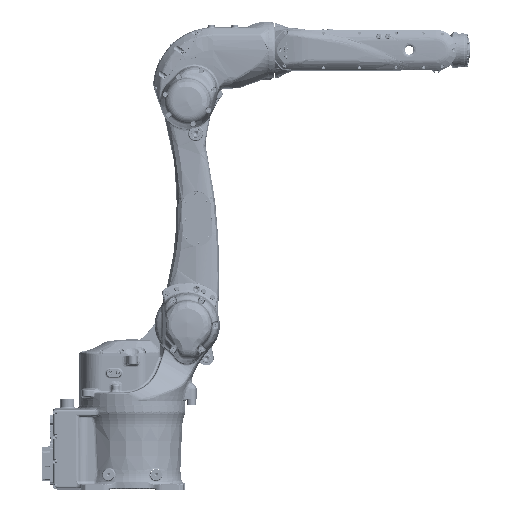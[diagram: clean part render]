
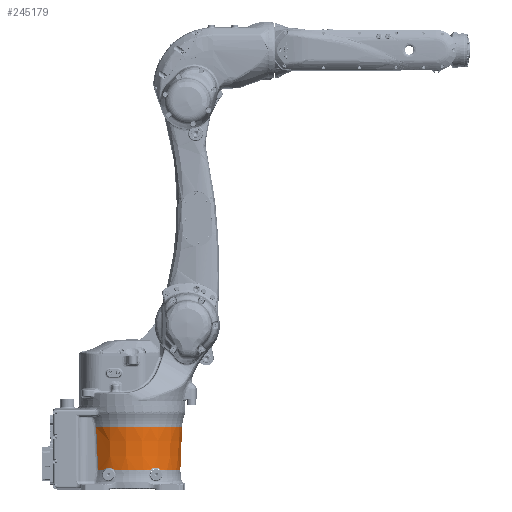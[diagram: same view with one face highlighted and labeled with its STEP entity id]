
A CAD part, front view. The second image highlights one B-rep face of the part: STEP entity #245179.
In plain terms, the highlighted conical face has half-angle 2 degrees and reference radius 131.595 mm.
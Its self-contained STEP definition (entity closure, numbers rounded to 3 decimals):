
#9065=B_SPLINE_CURVE_WITH_KNOTS('',3,(#563673,#563674,#563675,#563676,#563677,
#563678,#563679),.UNSPECIFIED.,.F.,.F.,(4,3,4),(0.,82.52,165.04),
 .UNSPECIFIED.);
#9066=B_SPLINE_CURVE_WITH_KNOTS('',5,(#563738,#563739,#563740,#563741,#563742,
#563743),.UNSPECIFIED.,.F.,.F.,(6,6),(126.485,243.203),
 .UNSPECIFIED.);
#9067=B_SPLINE_CURVE_WITH_KNOTS('',5,(#563747,#563748,#563749,#563750,#563751,
#563752,#563753,#563754,#563755,#563756,#563757,#563758),.UNSPECIFIED.,
 .F.,.F.,(6,3,3,6),(32.796,43.551,52.539,65.228),
 .UNSPECIFIED.);
#9068=B_SPLINE_CURVE_WITH_KNOTS('',5,(#563762,#563763,#563764,#563765,#563766,
#563767,#563768,#563769,#563770,#563771,#563772,#563773),.UNSPECIFIED.,
 .F.,.F.,(6,3,3,6),(33.982,47.342,55.68,66.42),
 .UNSPECIFIED.);
#9069=B_SPLINE_CURVE_WITH_KNOTS('',5,(#563777,#563778,#563779,#563780,#563781,
#563782,#563783,#563784,#563785,#563786,#563787,#563788),.UNSPECIFIED.,
 .F.,.F.,(6,3,3,6),(33.982,46.672,55.659,66.415),
 .UNSPECIFIED.);
#9070=B_SPLINE_CURVE_WITH_KNOTS('',5,(#563791,#563792,#563793,#563794,#563795,
#563796,#563797,#563798,#563799,#563800,#563801,#563802),.UNSPECIFIED.,
 .F.,.F.,(6,3,3,6),(32.793,45.549,54.085,65.241),
 .UNSPECIFIED.);
#31979=FACE_OUTER_BOUND('',#48189,.T.);
#48189=EDGE_LOOP('',(#185296,#185297,#185298,#185299,#185300,#185301,#185302,
#185303,#185304,#185305,#185306,#185307));
#93471=CIRCLE('',#264457,135.666);
#93487=CIRCLE('',#264483,131.595);
#93488=CIRCLE('',#264484,131.595);
#93489=CIRCLE('',#264485,131.595);
#93490=CIRCLE('',#264486,131.595);
#93491=CIRCLE('',#264487,131.595);
#108913=VERTEX_POINT('',#562612);
#108918=VERTEX_POINT('',#562655);
#108941=VERTEX_POINT('',#563577);
#108946=VERTEX_POINT('',#563735);
#108947=VERTEX_POINT('',#563737);
#108948=VERTEX_POINT('',#563744);
#108949=VERTEX_POINT('',#563746);
#108950=VERTEX_POINT('',#563759);
#108951=VERTEX_POINT('',#563761);
#108952=VERTEX_POINT('',#563774);
#108953=VERTEX_POINT('',#563776);
#108954=VERTEX_POINT('',#563789);
#136585=EDGE_CURVE('',#108913,#108918,#93471,.F.);
#136631=EDGE_CURVE('',#108941,#108913,#9065,.T.);
#136632=EDGE_CURVE('',#108941,#108946,#93487,.T.);
#136633=EDGE_CURVE('',#108947,#108918,#9066,.F.);
#136634=EDGE_CURVE('',#108948,#108947,#93488,.T.);
#136635=EDGE_CURVE('',#108949,#108948,#9067,.T.);
#136636=EDGE_CURVE('',#108950,#108949,#93489,.T.);
#136637=EDGE_CURVE('',#108951,#108950,#9068,.T.);
#136638=EDGE_CURVE('',#108952,#108951,#93490,.T.);
#136639=EDGE_CURVE('',#108953,#108952,#9069,.F.);
#136640=EDGE_CURVE('',#108954,#108953,#93491,.T.);
#136641=EDGE_CURVE('',#108946,#108954,#9070,.F.);
#185296=ORIENTED_EDGE('',*,*,#136632,.F.);
#185297=ORIENTED_EDGE('',*,*,#136631,.T.);
#185298=ORIENTED_EDGE('',*,*,#136585,.T.);
#185299=ORIENTED_EDGE('',*,*,#136633,.F.);
#185300=ORIENTED_EDGE('',*,*,#136634,.F.);
#185301=ORIENTED_EDGE('',*,*,#136635,.F.);
#185302=ORIENTED_EDGE('',*,*,#136636,.F.);
#185303=ORIENTED_EDGE('',*,*,#136637,.F.);
#185304=ORIENTED_EDGE('',*,*,#136638,.F.);
#185305=ORIENTED_EDGE('',*,*,#136639,.F.);
#185306=ORIENTED_EDGE('',*,*,#136640,.F.);
#185307=ORIENTED_EDGE('',*,*,#136641,.F.);
#239562=CONICAL_SURFACE('',#264482,131.595,0.035);
#245179=ADVANCED_FACE('',(#31979),#239562,.T.);
#264457=AXIS2_PLACEMENT_3D('',#562665,#303838,#303839);
#264482=AXIS2_PLACEMENT_3D('',#563734,#303899,#303900);
#264483=AXIS2_PLACEMENT_3D('',#563736,#303901,#303902);
#264484=AXIS2_PLACEMENT_3D('',#563745,#303903,#303904);
#264485=AXIS2_PLACEMENT_3D('',#563760,#303905,#303906);
#264486=AXIS2_PLACEMENT_3D('',#563775,#303907,#303908);
#264487=AXIS2_PLACEMENT_3D('',#563790,#303909,#303910);
#303838=DIRECTION('center_axis',(0.,0.,1.));
#303839=DIRECTION('ref_axis',(-1.,0.,0.));
#303899=DIRECTION('center_axis',(0.,0.,1.));
#303900=DIRECTION('ref_axis',(0.878,-0.479,0.));
#303901=DIRECTION('center_axis',(0.,0.,-1.));
#303902=DIRECTION('ref_axis',(1.,0.,0.));
#303903=DIRECTION('center_axis',(0.,0.,-1.));
#303904=DIRECTION('ref_axis',(1.,0.,0.));
#303905=DIRECTION('center_axis',(0.,0.,-1.));
#303906=DIRECTION('ref_axis',(1.,0.,0.));
#303907=DIRECTION('center_axis',(0.,0.,-1.));
#303908=DIRECTION('ref_axis',(1.,0.,0.));
#303909=DIRECTION('center_axis',(0.,0.,-1.));
#303910=DIRECTION('ref_axis',(1.,0.,0.));
#562612=CARTESIAN_POINT('',(-98.643,93.139,171.49));
#562655=CARTESIAN_POINT('',(-98.643,-93.139,171.49));
#562665=CARTESIAN_POINT('Origin',(0.,0.,171.49));
#563577=CARTESIAN_POINT('',(-93.161,92.942,54.905));
#563673=CARTESIAN_POINT('Ctrl Pts',(-93.161,92.942,54.905));
#563674=CARTESIAN_POINT('Ctrl Pts',(-94.086,92.975,
74.335));
#563675=CARTESIAN_POINT('Ctrl Pts',(-95.005,93.009,
93.766));
#563676=CARTESIAN_POINT('Ctrl Pts',(-95.918,93.042,
113.197));
#563677=CARTESIAN_POINT('Ctrl Pts',(-96.832,93.074,
132.628));
#563678=CARTESIAN_POINT('Ctrl Pts',(-97.74,93.107,
152.059));
#563679=CARTESIAN_POINT('Ctrl Pts',(-98.643,93.139,171.49));
#563734=CARTESIAN_POINT('Origin',(0.,0.,54.905));
#563735=CARTESIAN_POINT('',(-77.636,106.254,54.905));
#563736=CARTESIAN_POINT('Origin',(0.,0.,54.905));
#563737=CARTESIAN_POINT('',(-93.161,-92.942,54.905));
#563738=CARTESIAN_POINT('Ctrl Pts',(-98.643,-93.139,171.49));
#563739=CARTESIAN_POINT('Ctrl Pts',(-97.559,-93.101,
148.172));
#563740=CARTESIAN_POINT('Ctrl Pts',(-96.469,-93.062,
124.855));
#563741=CARTESIAN_POINT('Ctrl Pts',(-95.373,-93.022,
101.538));
#563742=CARTESIAN_POINT('Ctrl Pts',(-94.271,-92.982,
78.221));
#563743=CARTESIAN_POINT('Ctrl Pts',(-93.161,-92.942,
54.905));
#563744=CARTESIAN_POINT('',(-77.636,-106.254,54.905));
#563745=CARTESIAN_POINT('Origin',(0.,0.,54.905));
#563746=CARTESIAN_POINT('',(-50.196,-121.645,54.905));
#563747=CARTESIAN_POINT('Ctrl Pts',(-50.196,-121.645,54.905));
#563748=CARTESIAN_POINT('Ctrl Pts',(-51.64,-121.11,56.509));
#563749=CARTESIAN_POINT('Ctrl Pts',(-53.318,-120.446,57.912));
#563750=CARTESIAN_POINT('Ctrl Pts',(-55.191,-119.651,59.055));
#563751=CARTESIAN_POINT('Ctrl Pts',(-58.852,-117.971,60.603));
#563752=CARTESIAN_POINT('Ctrl Pts',(-62.679,-115.981,61.133));
#563753=CARTESIAN_POINT('Ctrl Pts',(-64.415,-115.027,61.162));
#563754=CARTESIAN_POINT('Ctrl Pts',(-68.507,-112.656,60.756));
#563755=CARTESIAN_POINT('Ctrl Pts',(-72.252,-110.214,59.287));
#563756=CARTESIAN_POINT('Ctrl Pts',(-74.268,-108.807,58.105));
#563757=CARTESIAN_POINT('Ctrl Pts',(-76.076,-107.468,56.636));
#563758=CARTESIAN_POINT('Ctrl Pts',(-77.636,-106.254,54.905));
#563759=CARTESIAN_POINT('',(50.196,-121.645,54.905));
#563760=CARTESIAN_POINT('Origin',(0.,0.,54.905));
#563761=CARTESIAN_POINT('',(77.636,-106.254,54.905));
#563762=CARTESIAN_POINT('Ctrl Pts',(77.636,-106.254,
54.905));
#563763=CARTESIAN_POINT('Ctrl Pts',(75.994,-107.532,
56.728));
#563764=CARTESIAN_POINT('Ctrl Pts',(74.077,-108.948,
58.258));
#563765=CARTESIAN_POINT('Ctrl Pts',(71.933,-110.436,
59.472));
#563766=CARTESIAN_POINT('Ctrl Pts',(68.136,-112.887,
60.854));
#563767=CARTESIAN_POINT('Ctrl Pts',(64.021,-115.243,61.152));
#563768=CARTESIAN_POINT('Ctrl Pts',(62.41,-116.121,61.096));
#563769=CARTESIAN_POINT('Ctrl Pts',(58.718,-118.032,60.547));
#563770=CARTESIAN_POINT('Ctrl Pts',(55.182,-119.655,59.049));
#563771=CARTESIAN_POINT('Ctrl Pts',(53.313,-120.448,
57.907));
#563772=CARTESIAN_POINT('Ctrl Pts',(51.637,-121.111,
56.506));
#563773=CARTESIAN_POINT('Ctrl Pts',(50.196,-121.645,54.905));
#563774=CARTESIAN_POINT('',(77.636,106.254,54.905));
#563775=CARTESIAN_POINT('Origin',(0.,0.,54.905));
#563776=CARTESIAN_POINT('',(50.196,121.645,54.905));
#563777=CARTESIAN_POINT('Ctrl Pts',(77.636,106.254,54.905));
#563778=CARTESIAN_POINT('Ctrl Pts',(76.076,107.468,56.636));
#563779=CARTESIAN_POINT('Ctrl Pts',(74.268,108.807,58.105));
#563780=CARTESIAN_POINT('Ctrl Pts',(72.252,110.214,59.287));
#563781=CARTESIAN_POINT('Ctrl Pts',(68.507,112.656,60.756));
#563782=CARTESIAN_POINT('Ctrl Pts',(64.415,115.027,61.162));
#563783=CARTESIAN_POINT('Ctrl Pts',(62.679,115.981,61.133));
#563784=CARTESIAN_POINT('Ctrl Pts',(58.852,117.971,60.603));
#563785=CARTESIAN_POINT('Ctrl Pts',(55.191,119.651,59.055));
#563786=CARTESIAN_POINT('Ctrl Pts',(53.318,120.446,57.912));
#563787=CARTESIAN_POINT('Ctrl Pts',(51.64,121.11,56.509));
#563788=CARTESIAN_POINT('Ctrl Pts',(50.196,121.645,54.905));
#563789=CARTESIAN_POINT('',(-50.196,121.645,54.905));
#563790=CARTESIAN_POINT('Origin',(0.,0.,54.905));
#563791=CARTESIAN_POINT('Ctrl Pts',(-50.196,121.645,54.905));
#563792=CARTESIAN_POINT('Ctrl Pts',(-51.907,121.011,56.805));
#563793=CARTESIAN_POINT('Ctrl Pts',(-53.947,120.196,58.424));
#563794=CARTESIAN_POINT('Ctrl Pts',(-56.255,119.193,59.663));
#563795=CARTESIAN_POINT('Ctrl Pts',(-60.314,117.256,60.994));
#563796=CARTESIAN_POINT('Ctrl Pts',(-64.422,115.021,61.152));
#563797=CARTESIAN_POINT('Ctrl Pts',(-66.044,114.091,61.031));
#563798=CARTESIAN_POINT('Ctrl Pts',(-69.677,111.907,60.358));
#563799=CARTESIAN_POINT('Ctrl Pts',(-72.975,109.706,58.845));
#563800=CARTESIAN_POINT('Ctrl Pts',(-74.703,108.484,
57.745));
#563801=CARTESIAN_POINT('Ctrl Pts',(-76.266,107.321,
56.426));
#563802=CARTESIAN_POINT('Ctrl Pts',(-77.636,106.254,
54.905));
